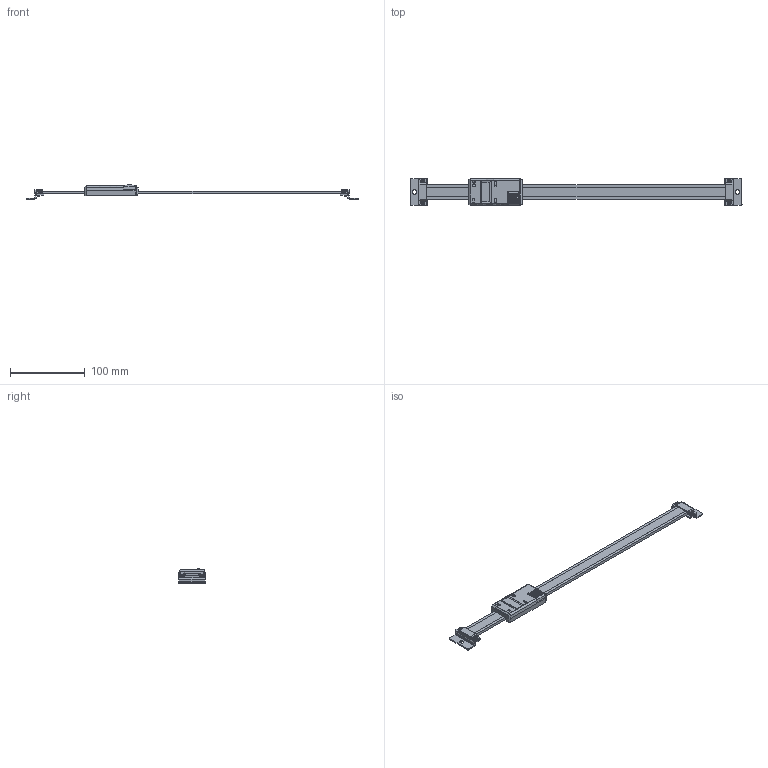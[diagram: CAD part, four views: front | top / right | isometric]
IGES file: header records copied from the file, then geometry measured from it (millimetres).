
Start section: Elysium IGES Interface
Global section: file name: 156HK:\20_商品設計\_他部署公開\00_商品群\03_測器\部会関係\2017年6月以降_新部会体制発足後\03_個別テーマ\2019_3Dデータ提供\SD_3Dデータ_iges\572-303-10_SDV-30D.igs; native system: Creo Elements/Direct Modeling 18.1I  13-Aug-2016; preprocessor: Creo Element/Direct IGES_3D V2.2; author: Unknown; organization: Unknown; date: 20191015.130055; units: millimetre
Bounding box: 444 x 36 x 19.27 mm (x, y, z)
Volume: 62285.2 mm3; surface area: 40100.3 mm2
Topology: 4 solids, 4 shells, 732 faces, 1894 edges, 1192 vertices
Faces by surface type: bspline 732
